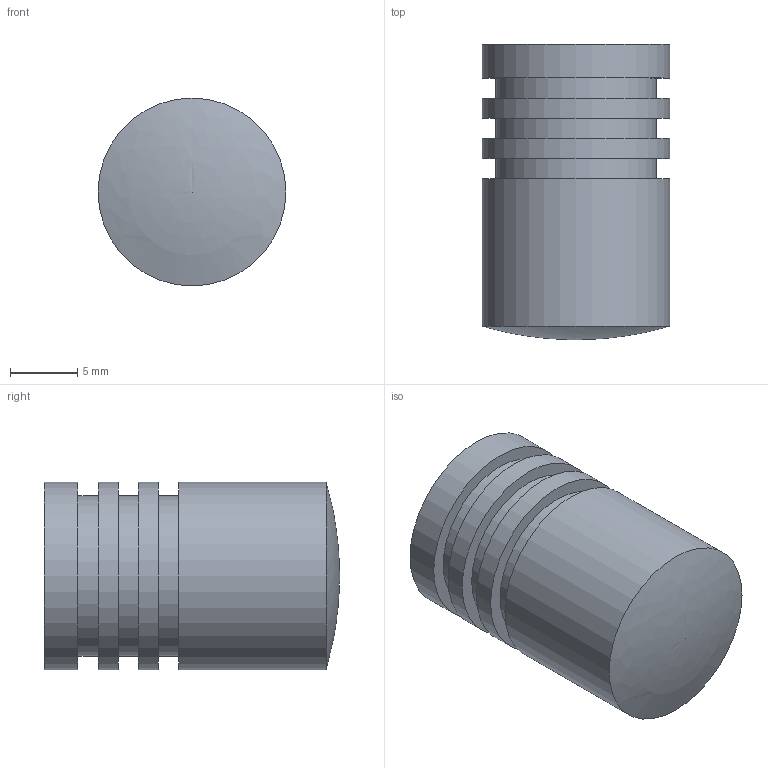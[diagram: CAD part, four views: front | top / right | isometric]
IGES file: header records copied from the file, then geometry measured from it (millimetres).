
Start section: Data from Parasolid IGES Translator 15.0.47, Copyright(c) 2006 Siemens P LM Software. All Rights Reserved.
Global section: file name: 9070263.igs; native system:  By UGS Corp.; preprocessor: XPlus GENERIC/IGES 3.0; author: Noname; organization: Noname; date: 20140122.174845; units: millimetre
Bounding box: 14 x 22 x 14 mm (x, y, z)
Surface area: 1577.1 mm2 (no closed solid volume)
Topology: 0 solids, 0 shells, 17 faces, 51 edges, 34 vertices
Faces by surface type: revolution 9, extrusion 8
